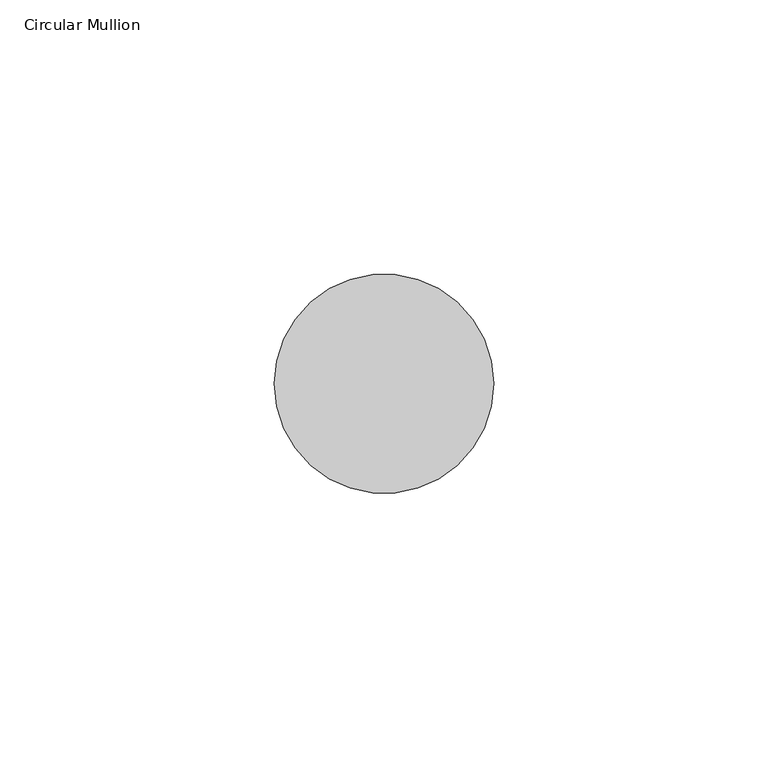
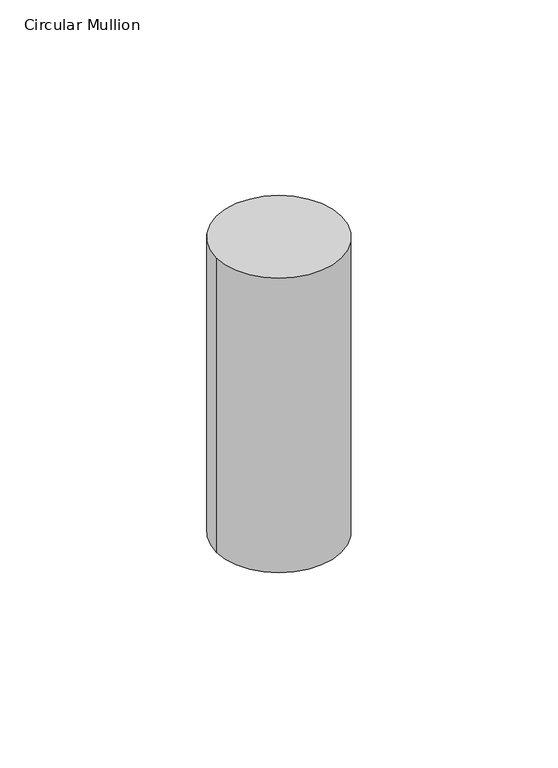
"""IFC4 building model written with IfcOpenShell, lengths in millimetres: member geometry, Circular Mullion : GRADIL 40mm."""

from ifc_helpers import new_model, si_unit, point, frame, origin, origin_2d, place, context, project, spatial, circle_curve, trimmed, segment, composite_curve, outline, extrude, source, transform, mapped, element, save


def circular_mullion_8881820c(model_context):
    return source(origin(), model_context, "Body", "SweptSolid", [
        extrude(outline(composite_curve([segment(trimmed(circle_curve(origin_2d(), 20.0), [point((20.0, 0.0))], [point((-20.0, 0.0))], False, "CARTESIAN"), True, "CONTINUOUS"), segment(trimmed(circle_curve(origin_2d(), 20.0), [point((-20.0, 0.0))], [point((20.0, 0.0))], False, "CARTESIAN"), True, "CONTINUOUS")], self_intersect=False)), frame((0.0, 0.0, -99.651178), z_axis=(0.0, 0.0, 1.0), x_axis=(1.0, 0.0, 0.0)), (0.0, 0.0, 1.0), 99.651178),
    ])


if __name__ == "__main__":
    model = new_model("IFC4")
    model_context = context("Model", 3, world=origin())
    ifc_project = project(units=[si_unit("LENGTHUNIT", "METRE", prefix="MILLI")], contexts=[model_context])
    site = spatial("IfcSite", under=ifc_project)
    building = spatial("IfcBuilding", under=site)
    placement = place(None, origin())
    circular_mullion_shape = circular_mullion_8881820c(model_context)
    element("IfcMember", 1, ObjectType="Circular Mullion : GRADIL 40mm", at=placement, inside=building, context=model_context, shape_type="MappedRepresentation", body=[
        mapped(circular_mullion_shape, transform((0.0, 0.0, 0.0), x_axis=(1.0, 0.0, 0.0), y_axis=(0.0, 1.0, 0.0), z_axis=(0.0, 0.0, 1.0))),
    ])
    save(model, "model.ifc")
